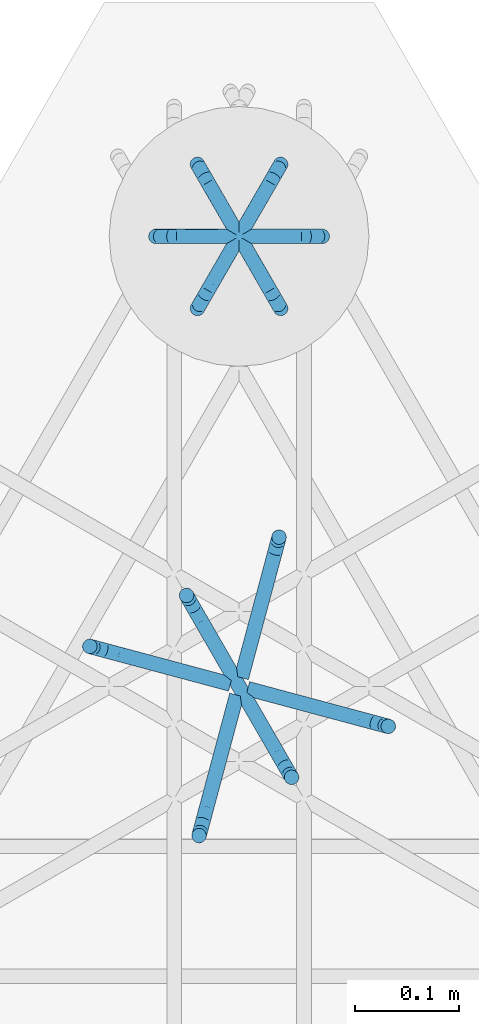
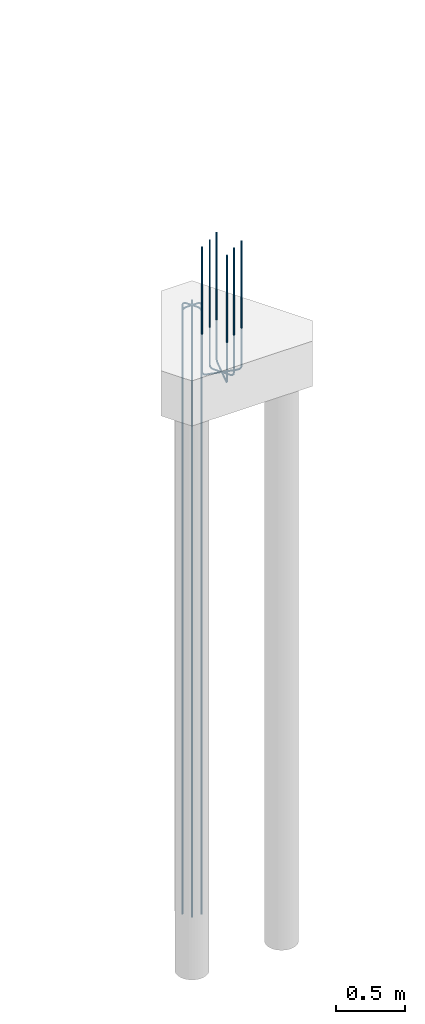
# One storey, part 4 of 23: 2 reinforcing bars.
"""IFC2X3 building model written with IfcOpenShell, lengths in metres."""

from ifc_helpers import new_model, entity, si_unit, direction, frame, origin, place, context, subcontext, project, spatial, shape, source, transform, mapped, element, save


model = new_model("IFC2X3")

# Units and contexts
model_context = context("Model", 3, precision=0.0, world=origin(), true_north=direction((0.0, 1.0)))
plan_context = context("Plan", 3, precision=0.0, world=origin(), true_north=direction((0.0, 1.0)))
body_context = subcontext(model_context, "Body", "Model", "MODEL_VIEW", scale=1.0)
ifc_project = project(units=[si_unit("LENGTHUNIT", "METRE"), si_unit("AREAUNIT", "SQUARE_METRE"), si_unit("VOLUMEUNIT", "CUBIC_METRE"), si_unit("PLANEANGLEUNIT", "RADIAN"), si_unit("THERMODYNAMICTEMPERATUREUNIT", "DEGREE_CELSIUS"), si_unit("FORCEUNIT", "NEWTON"), si_unit("MASSUNIT", "GRAM", prefix="KILO")], contexts=[model_context, plan_context])

# Site, building, storey
placement = place(None, origin())
site = spatial("IfcSite", under=ifc_project, at=placement, Name="Default Site", CompositionType="ELEMENT")
building = spatial("IfcBuilding", under=site, at=placement, Name="Default Building", CompositionType="ELEMENT")
storey_placement = place(placement, frame((0.0, 0.0, 0.0), z_axis=(1.0, 0.0, 0.0), x_axis=(0.0, 0.0, 1.0)))
storey = spatial("IfcBuildingStorey", under=building, at=storey_placement, Name="Piano 0", CompositionType="ELEMENT", Elevation=0.0)

# Reinforcing bars
shared_shape_1 = source(origin(), body_context, None, "AdvancedSweptSolid", [
    entity("IfcSweptDiskSolid", entity("IfcCompositeCurve", [entity("IfcCompositeCurveSegment", "CONTINUOUS", True, entity("IfcPolyline", [entity("IfcCartesianPoint", [0.0, 0.0, 0.0]), entity("IfcCartesianPoint", [-0.112, 0.0, 0.0]), entity("IfcCartesianPoint", [-0.126, 0.0, -0.003751]), entity("IfcCartesianPoint", [-0.136249, 0.0, -0.014]), entity("IfcCartesianPoint", [-0.14, 0.0, -0.028]), entity("IfcCartesianPoint", [-0.14, 0.0, -5.365])]))], False), 0.007, 0.0, 0.0),
])
shared_shape_2 = source(origin(), body_context, None, "AdvancedSweptSolid", [
    entity("IfcSweptDiskSolid", entity("IfcCompositeCurve", [entity("IfcCompositeCurveSegment", "CONTINUOUS", True, entity("IfcPolyline", [entity("IfcCartesianPoint", [0.0, 0.0, 0.0]), entity("IfcCartesianPoint", [-0.112, 0.0, 0.0]), entity("IfcCartesianPoint", [-0.126, 0.0, -0.003751]), entity("IfcCartesianPoint", [-0.136249, 0.0, -0.014]), entity("IfcCartesianPoint", [-0.14, 0.0, -0.028]), entity("IfcCartesianPoint", [-0.14, 0.0, -5.365])]))], False), 0.007, 0.0, 0.0),
])
shared_shape_3 = source(origin(), body_context, None, "AdvancedSweptSolid", [
    entity("IfcSweptDiskSolid", entity("IfcCompositeCurve", [entity("IfcCompositeCurveSegment", "CONTINUOUS", True, entity("IfcPolyline", [entity("IfcCartesianPoint", [0.0, 0.0, 0.0]), entity("IfcCartesianPoint", [-0.112, 0.0, 0.0]), entity("IfcCartesianPoint", [-0.126, 0.0, -0.003751]), entity("IfcCartesianPoint", [-0.136249, 0.0, -0.014]), entity("IfcCartesianPoint", [-0.14, 0.0, -0.028]), entity("IfcCartesianPoint", [-0.14, 0.0, -5.365])]))], False), 0.007, 0.0, 0.0),
])
shared_shape_4 = source(origin(), body_context, None, "AdvancedSweptSolid", [
    entity("IfcSweptDiskSolid", entity("IfcCompositeCurve", [entity("IfcCompositeCurveSegment", "CONTINUOUS", True, entity("IfcPolyline", [entity("IfcCartesianPoint", [0.0, 0.0, 0.0]), entity("IfcCartesianPoint", [-0.112, 0.0, 0.0]), entity("IfcCartesianPoint", [-0.126, 0.0, -0.003751]), entity("IfcCartesianPoint", [-0.136249, 0.0, -0.014]), entity("IfcCartesianPoint", [-0.14, 0.0, -0.028]), entity("IfcCartesianPoint", [-0.14, 0.0, -5.365])]))], False), 0.007, 0.0, 0.0),
])
shared_shape_5 = source(origin(), body_context, None, "AdvancedSweptSolid", [
    entity("IfcSweptDiskSolid", entity("IfcCompositeCurve", [entity("IfcCompositeCurveSegment", "CONTINUOUS", True, entity("IfcPolyline", [entity("IfcCartesianPoint", [0.0, 0.0, 0.0]), entity("IfcCartesianPoint", [-0.112, 0.0, 0.0]), entity("IfcCartesianPoint", [-0.126, 0.0, -0.003751]), entity("IfcCartesianPoint", [-0.136249, 0.0, -0.014]), entity("IfcCartesianPoint", [-0.14, 0.0, -0.028]), entity("IfcCartesianPoint", [-0.14, 0.0, -5.365])]))], False), 0.007, 0.0, 0.0),
])
shared_shape_6 = source(origin(), body_context, None, "AdvancedSweptSolid", [
    entity("IfcSweptDiskSolid", entity("IfcCompositeCurve", [entity("IfcCompositeCurveSegment", "CONTINUOUS", True, entity("IfcPolyline", [entity("IfcCartesianPoint", [0.0, 0.0, 0.0]), entity("IfcCartesianPoint", [-0.112, 0.0, 0.0]), entity("IfcCartesianPoint", [-0.126, 0.0, -0.003751]), entity("IfcCartesianPoint", [-0.136249, 0.0, -0.014]), entity("IfcCartesianPoint", [-0.14, 0.0, -0.028]), entity("IfcCartesianPoint", [-0.14, 0.0, -5.365])]))], False), 0.007, 0.0, 0.0),
])
element("IfcReinforcingBar", 1, at=placement, inside=storey, Name="Arm Principale; Palo:2 Filo:2 [Piano:0]", BarLength=33.03, BarRole="MAIN", BarSurface="TEXTURED", NominalDiameter=0.014, shapes=[
    shape(body_context, None, "MappedRepresentation", [mapped(shared_shape_1, transform((4.06, 0.433, -0.035))), mapped(shared_shape_2, transform((4.03, 0.484962, -0.035), x_axis=(0.5, 0.866025, 0.0), y_axis=(-0.866025, 0.5, 0.0))), mapped(shared_shape_3, transform((3.97, 0.484962, -0.035), x_axis=(-0.5, 0.866025, 0.0), y_axis=(-0.866025, -0.5, 0.0))), mapped(shared_shape_4, transform((3.94, 0.433, -0.035), x_axis=(-1.0, 0.0, 0.0), y_axis=(0.0, -1.0, 0.0))), mapped(shared_shape_5, transform((3.97, 0.381038, -0.035), x_axis=(-0.5, -0.866025, 0.0), y_axis=(0.866025, -0.5, 0.0))), mapped(shared_shape_6, transform((4.03, 0.381038, -0.035), x_axis=(0.5, -0.866025, 0.0), y_axis=(0.866025, 0.5, 0.0)))]),
])
shared_shape_7 = source(origin(), body_context, None, "AdvancedSweptSolid", [
    entity("IfcSweptDiskSolid", entity("IfcCompositeCurve", [entity("IfcCompositeCurveSegment", "CONTINUOUS", True, entity("IfcPolyline", [entity("IfcCartesianPoint", [0.0, 0.0, 0.0]), entity("IfcCartesianPoint", [-0.028988, -0.108184, 0.0]), entity("IfcCartesianPoint", [-0.032611, -0.121707, 0.003751]), entity("IfcCartesianPoint", [-0.035264, -0.131606, 0.014]), entity("IfcCartesianPoint", [-0.036235, -0.13523, 0.028]), entity("IfcCartesianPoint", [-0.036235, -0.13523, 1.135])]))], False), 0.007, 0.0, 0.0),
])
shared_shape_8 = source(origin(), body_context, None, "MappedRepresentation", [mapped(shared_shape_7, transform((3.997765, -0.00834, -0.365)))])
shared_shape_9 = source(origin(), body_context, None, "AdvancedSweptSolid", [
    entity("IfcSweptDiskSolid", entity("IfcCompositeCurve", [entity("IfcCompositeCurveSegment", "CONTINUOUS", True, entity("IfcPolyline", [entity("IfcCartesianPoint", [0.0, 0.0, 0.0]), entity("IfcCartesianPoint", [0.108184, -0.028988, 0.0]), entity("IfcCartesianPoint", [0.121707, -0.032611, 0.003751]), entity("IfcCartesianPoint", [0.131606, -0.035264, 0.014]), entity("IfcCartesianPoint", [0.13523, -0.036235, 0.028]), entity("IfcCartesianPoint", [0.13523, -0.036235, 1.135])]))], False), 0.007, 0.0, 0.0),
])
shared_shape_10 = source(origin(), body_context, None, "MappedRepresentation", [mapped(shared_shape_9, transform((4.00834, -0.002235, -0.365)))])
shared_shape_11 = source(origin(), body_context, None, "AdvancedSweptSolid", [
    entity("IfcSweptDiskSolid", entity("IfcCompositeCurve", [entity("IfcCompositeCurveSegment", "CONTINUOUS", True, entity("IfcPolyline", [entity("IfcCartesianPoint", [0.0, 0.0, 0.0]), entity("IfcCartesianPoint", [0.028988, 0.108184, 0.0]), entity("IfcCartesianPoint", [0.032611, 0.121707, 0.003751]), entity("IfcCartesianPoint", [0.035264, 0.131606, 0.014]), entity("IfcCartesianPoint", [0.036235, 0.13523, 0.028]), entity("IfcCartesianPoint", [0.036235, 0.13523, 1.135])]))], False), 0.007, 0.0, 0.0),
])
shared_shape_12 = source(origin(), body_context, None, "MappedRepresentation", [mapped(shared_shape_11, transform((4.002235, 0.00834, -0.365)))])
shared_shape_13 = source(origin(), body_context, None, "AdvancedSweptSolid", [
    entity("IfcSweptDiskSolid", entity("IfcCompositeCurve", [entity("IfcCompositeCurveSegment", "CONTINUOUS", True, entity("IfcPolyline", [entity("IfcCartesianPoint", [0.0, 0.0, 0.0]), entity("IfcCartesianPoint", [-0.108184, 0.028988, 0.0]), entity("IfcCartesianPoint", [-0.121707, 0.032611, 0.003751]), entity("IfcCartesianPoint", [-0.131606, 0.035264, 0.014]), entity("IfcCartesianPoint", [-0.13523, 0.036235, 0.028]), entity("IfcCartesianPoint", [-0.13523, 0.036235, 1.135])]))], False), 0.007, 0.0, 0.0),
])
shared_shape_14 = source(origin(), body_context, None, "MappedRepresentation", [mapped(shared_shape_13, transform((3.99166, 0.002235, -0.365)))])
shared_shape_15 = source(origin(), body_context, None, "AdvancedSweptSolid", [
    entity("IfcSweptDiskSolid", entity("IfcCompositeCurve", [entity("IfcCompositeCurveSegment", "CONTINUOUS", True, entity("IfcPolyline", [entity("IfcCartesianPoint", [0.0, 0.0, 0.0]), entity("IfcCartesianPoint", [0.056, -0.096995, 0.0]), entity("IfcCartesianPoint", [0.063, -0.109119, 0.003751]), entity("IfcCartesianPoint", [0.068124, -0.117995, 0.014]), entity("IfcCartesianPoint", [0.07, -0.121244, 0.028]), entity("IfcCartesianPoint", [0.07, -0.121244, 1.135])]))], False), 0.007, 0.0, 0.0),
])
shared_shape_16 = source(origin(), body_context, None, "MappedRepresentation", [mapped(shared_shape_15, transform((3.9805, 0.033775, -0.365)))])
shared_shape_17 = source(origin(), body_context, None, "AdvancedSweptSolid", [
    entity("IfcSweptDiskSolid", entity("IfcCompositeCurve", [entity("IfcCompositeCurveSegment", "CONTINUOUS", True, entity("IfcPolyline", [entity("IfcCartesianPoint", [0.0, 0.0, 0.0]), entity("IfcCartesianPoint", [-0.056, 0.096995, 0.0]), entity("IfcCartesianPoint", [-0.063, 0.109119, 0.003751]), entity("IfcCartesianPoint", [-0.068124, 0.117995, 0.014]), entity("IfcCartesianPoint", [-0.07, 0.121244, 0.028]), entity("IfcCartesianPoint", [-0.07, 0.121244, 1.135])]))], False), 0.007, 0.0, 0.0),
])
shared_shape_18 = source(origin(), body_context, None, "MappedRepresentation", [mapped(shared_shape_17, transform((4.0195, -0.033775, -0.365)))])
element("IfcReinforcingBar", 2, at=placement, inside=storey, Name="Arm Ancoraggio; Nodo:2 [Piano:0]", BarLength=7.57489, BarSurface="TEXTURED", NominalDiameter=0.014, shapes=[
    shape(body_context, None, "MappedRepresentation", [mapped(shared_shape_8, transform((0.0, 0.0, 0.0))), mapped(shared_shape_10, transform((0.0, 0.0, 0.0))), mapped(shared_shape_12, transform((0.0, 0.0, 0.0))), mapped(shared_shape_14, transform((0.0, 0.0, 0.0))), mapped(shared_shape_16, transform((0.0, 0.0, 0.0))), mapped(shared_shape_18, transform((0.0, 0.0, 0.0)))]),
])

save(model, "model.ifc")
